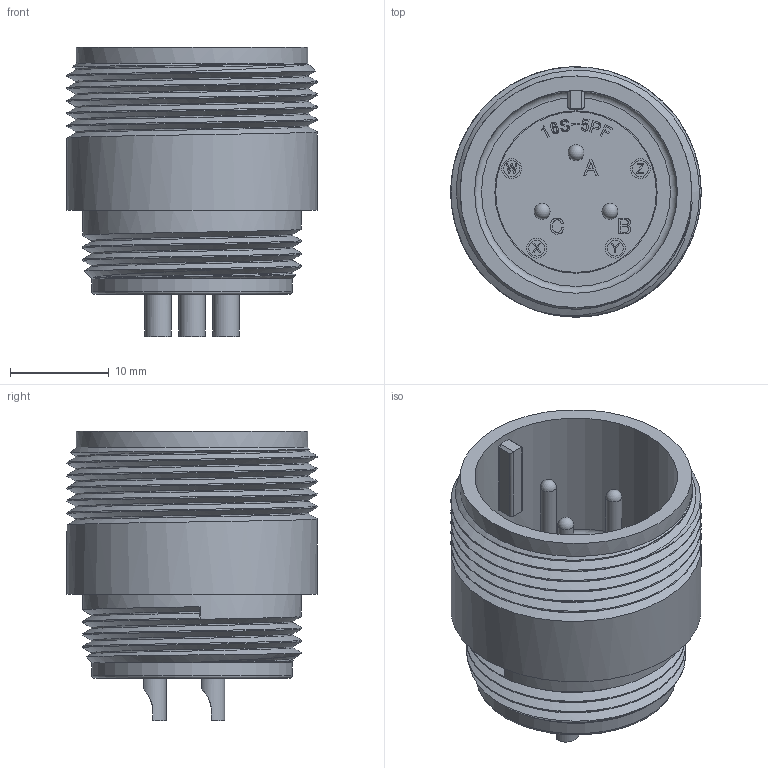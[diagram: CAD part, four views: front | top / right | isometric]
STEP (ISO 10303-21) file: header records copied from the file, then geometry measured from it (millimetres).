
FILE_DESCRIPTION (( 'STEP AP203' ), '1' );
FILE_NAME ('DMS3101A16S-5P(D263).STEP', '2022-01-24T07:00:10', ( '' ), ( '' ), 'SwSTEP 2.0', 'SolidWorks 2018', '' );
FILE_SCHEMA (( 'CONFIG_CONTROL_DESIGN' ));
Length unit declared in the file: millimetre
Products named in the file (1): DMS3101A16S-5P(D263)
Bounding box: 25.31 x 25.31 x 29.22 mm (x, y, z)
Volume: 5514.7 mm3; surface area: 5263.5 mm2
Topology: 1 solids, 1 shells, 559 faces, 1500 edges, 997 vertices
Faces by surface type: plane 264, bspline 236, cylinder 49, cone 4, sphere 3, torus 3
Full cylindrical faces by diameter (mm): 1.6 x4, 1.61 x3, 2 x4, 13.87 x1, 16.25 x1, 16.41 x1, 17.76 x1, 20.26 x1, 20.5 x1, 22.14 x3, 23.43 x1, 25.31 x5
Entity records: 25714 total; most frequent: CARTESIAN_POINT 13713, ORIENTED_EDGE 2856, DIRECTION 1646, EDGE_CURVE 1428, VERTEX_POINT 963, LINE 846, VECTOR 846, EDGE_LOOP 635
